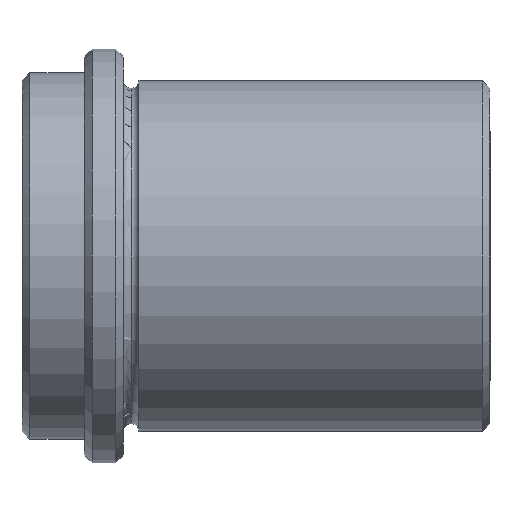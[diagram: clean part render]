
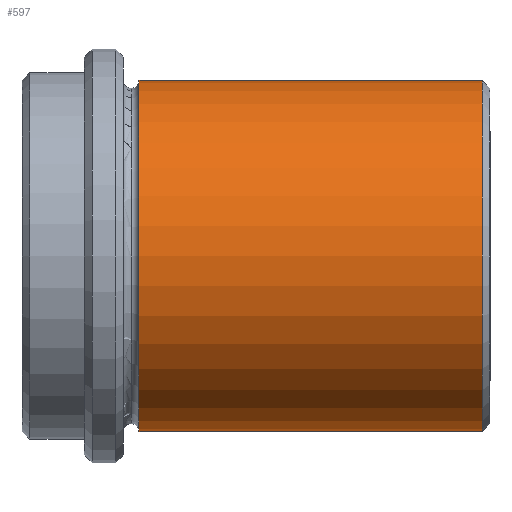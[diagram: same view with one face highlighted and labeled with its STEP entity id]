
A CAD part, left-side view. The second image highlights one B-rep face of the part: STEP entity #597.
In plain terms, the highlighted cylindrical face has radius 22.5 mm (diameter 45 mm), a partial arc.
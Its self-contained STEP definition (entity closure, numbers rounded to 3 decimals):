
#433=CARTESIAN_POINT('Vertex',(0.,45.,22.5)) ;
#440=CARTESIAN_POINT('Vertex',(0.,45.,-22.5)) ;
#466=CARTESIAN_POINT('Axis2P3D Location',(0.,45.,0.)) ;
#470=CARTESIAN_POINT('Vertex',(-22.5,45.,0.)) ;
#473=CARTESIAN_POINT('Axis2P3D Location',(0.,45.,0.)) ;
#537=CARTESIAN_POINT('Line Origine',(0.,0.,-22.5)) ;
#541=CARTESIAN_POINT('Vertex',(0.,1.,-22.5)) ;
#544=CARTESIAN_POINT('Line Origine',(0.,0.,22.5)) ;
#548=CARTESIAN_POINT('Vertex',(0.,1.,22.5)) ;
#572=CARTESIAN_POINT('Axis2P3D Location',(0.,0.,0.)) ;
#577=CARTESIAN_POINT('Axis2P3D Location',(0.,1.,0.)) ;
#581=CARTESIAN_POINT('Vertex',(-22.5,1.,0.)) ;
#584=CARTESIAN_POINT('Axis2P3D Location',(0.,1.,0.)) ;
#467=DIRECTION('Axis2P3D Direction',(0.,-1.,0.)) ;
#474=DIRECTION('Axis2P3D Direction',(0.,-1.,0.)) ;
#538=DIRECTION('Vector Direction',(0.,1.,0.)) ;
#545=DIRECTION('Vector Direction',(0.,1.,0.)) ;
#573=DIRECTION('Axis2P3D Direction',(0.,1.,0.)) ;
#574=DIRECTION('Axis2P3D XDirection',(0.,0.,-1.)) ;
#578=DIRECTION('Axis2P3D Direction',(0.,1.,0.)) ;
#585=DIRECTION('Axis2P3D Direction',(0.,1.,0.)) ;
#468=AXIS2_PLACEMENT_3D('Circle Axis2P3D',#466,#467,$) ;
#475=AXIS2_PLACEMENT_3D('Circle Axis2P3D',#473,#474,$) ;
#575=AXIS2_PLACEMENT_3D('Cylinder Axis2P3D',#572,#573,#574) ;
#579=AXIS2_PLACEMENT_3D('Circle Axis2P3D',#577,#578,$) ;
#586=AXIS2_PLACEMENT_3D('Circle Axis2P3D',#584,#585,$) ;
#590=ORIENTED_EDGE('',*,*,#550,.T.) ;
#591=ORIENTED_EDGE('',*,*,#477,.T.) ;
#592=ORIENTED_EDGE('',*,*,#472,.T.) ;
#593=ORIENTED_EDGE('',*,*,#543,.T.) ;
#594=ORIENTED_EDGE('',*,*,#583,.F.) ;
#595=ORIENTED_EDGE('',*,*,#588,.F.) ;
#539=VECTOR('Line Direction',#538,1.) ;
#546=VECTOR('Line Direction',#545,1.) ;
#597=ADVANCED_FACE('CF 439 30x60',(#596),#576,.T.) ;
#469=CIRCLE('generated circle',#468,22.5) ;
#476=CIRCLE('generated circle',#475,22.5) ;
#580=CIRCLE('generated circle',#579,22.5) ;
#587=CIRCLE('generated circle',#586,22.5) ;
#576=CYLINDRICAL_SURFACE('generated cylinder',#575,22.5) ;
#472=EDGE_CURVE('',#471,#441,#469,.T.) ;
#477=EDGE_CURVE('',#434,#471,#476,.T.) ;
#543=EDGE_CURVE('',#441,#542,#540,.F.) ;
#550=EDGE_CURVE('',#549,#434,#547,.T.) ;
#583=EDGE_CURVE('',#582,#542,#580,.F.) ;
#588=EDGE_CURVE('',#549,#582,#587,.F.) ;
#589=EDGE_LOOP('',(#590,#591,#592,#593,#594,#595)) ;
#596=FACE_OUTER_BOUND('',#589,.T.) ;
#540=LINE('Line',#537,#539) ;
#547=LINE('Line',#544,#546) ;
#434=VERTEX_POINT('',#433) ;
#441=VERTEX_POINT('',#440) ;
#471=VERTEX_POINT('',#470) ;
#542=VERTEX_POINT('',#541) ;
#549=VERTEX_POINT('',#548) ;
#582=VERTEX_POINT('',#581) ;
